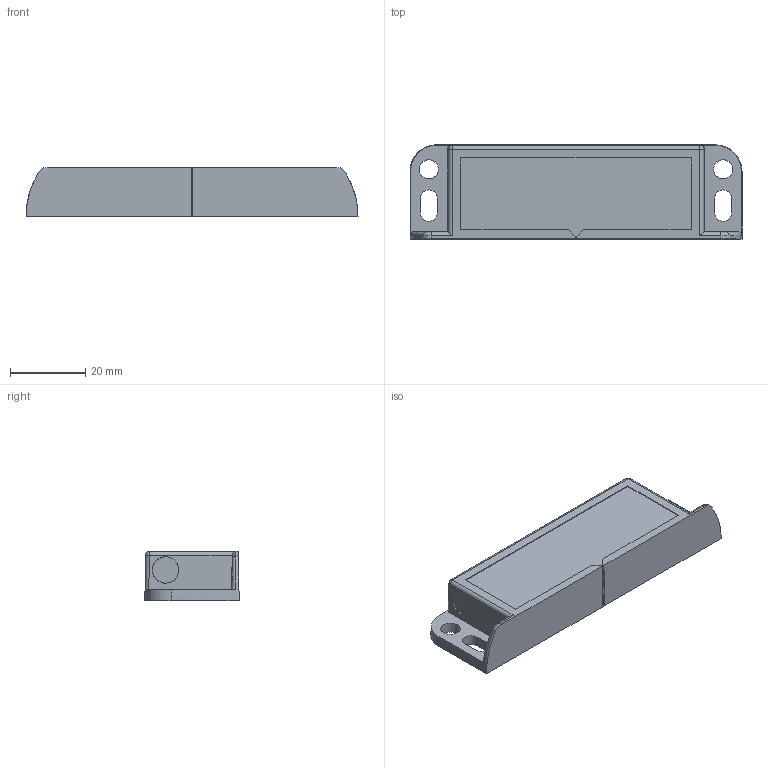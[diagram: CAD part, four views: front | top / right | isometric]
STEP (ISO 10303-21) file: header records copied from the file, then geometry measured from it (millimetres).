
FILE_DESCRIPTION(/* description */ (''),/* implementation_level */ '2;1');
FILE_NAME(/* name */ 'V:/a TO PERSON/Vilius/MC88/Catalogue/CADs/MC88CM1.step',/* time_stamp */ '2020-10-27T09:44:07+02:00',/* author */ (''),/* organization */ (''),/* preprocessor_version */ 'ST-DEVELOPER v18.1',/* originating_system */ 'Autodesk Translation Framework v9.3.0.1241',/* authorisation */ '');
FILE_SCHEMA (('AUTOMOTIVE_DESIGN { 1 0 10303 214 3 1 1 }'));
Length unit declared in the file: millimetre
Products named in the file (1): MC88CM1
Bounding box: 88 x 25 x 13 mm (x, y, z)
Volume: 23599.6 mm3; surface area: 14830.7 mm2
Topology: 2 solids, 2 shells, 132 faces, 359 edges, 234 vertices
Faces by surface type: plane 97, cylinder 19, bspline 8, cone 6, sphere 2
Full cylindrical faces by diameter (mm): 7 x2
Entity records: 4438 total; most frequent: CARTESIAN_POINT 1023, ORIENTED_EDGE 718, DIRECTION 663, EDGE_CURVE 359, LINE 293, VECTOR 293, VERTEX_POINT 234, AXIS2_PLACEMENT_3D 185
